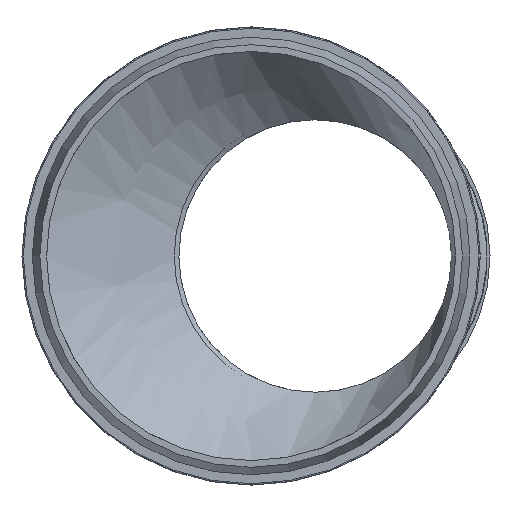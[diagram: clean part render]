
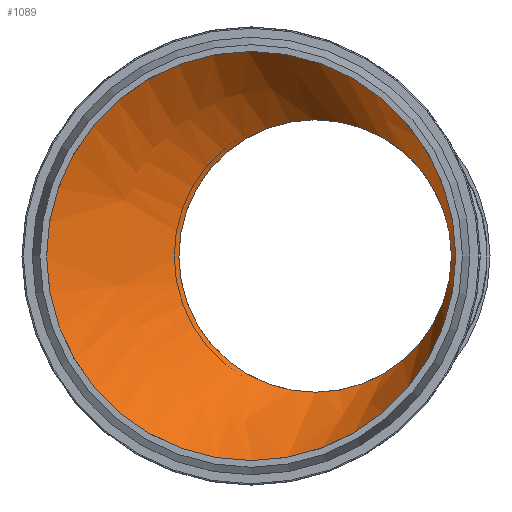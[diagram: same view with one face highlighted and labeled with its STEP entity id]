
A CAD part, front view. The second image highlights one B-rep face of the part: STEP entity #1089.
In plain terms, the highlighted free-form (B-spline) face has degree [1, 2] with [2, 9] control points.
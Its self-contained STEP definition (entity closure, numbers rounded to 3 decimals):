
#202=FACE_OUTER_BOUND($,#262,.T.);
#262=EDGE_LOOP($,(#729,#730,#731,#732,#733,#734));
#364=B_SPLINE_CURVE_WITH_KNOTS($,1,(#1611,#1612),.UNSPECIFIED.,.F.,.F.,
(2,2),(0.,0.848),.UNSPECIFIED.);
#414=CIRCLE($,#1162,49.9);
#415=CIRCLE($,#1163,49.9);
#416=CIRCLE($,#1164,74.925);
#417=CIRCLE($,#1165,74.925);
#473=VERTEX_POINT($,#1606);
#474=VERTEX_POINT($,#1607);
#475=VERTEX_POINT($,#1610);
#476=VERTEX_POINT($,#1613);
#584=EDGE_CURVE($,#473,#474,#414,.T.);
#585=EDGE_CURVE($,#474,#473,#415,.T.);
#586=EDGE_CURVE($,#474,#475,#364,.T.);
#587=EDGE_CURVE($,#475,#476,#416,.T.);
#588=EDGE_CURVE($,#476,#475,#417,.T.);
#729=ORIENTED_EDGE($,*,*,#584,.F.);
#730=ORIENTED_EDGE($,*,*,#585,.F.);
#731=ORIENTED_EDGE($,*,*,#586,.T.);
#732=ORIENTED_EDGE($,*,*,#587,.T.);
#733=ORIENTED_EDGE($,*,*,#588,.T.);
#734=ORIENTED_EDGE($,*,*,#586,.F.);
#1019=(
BOUNDED_SURFACE()
B_SPLINE_SURFACE(1,2,((#1588,#1589,#1590,#1591,#1592,#1593,#1594,#1595,
#1596),(#1597,#1598,#1599,#1600,#1601,#1602,#1603,#1604,#1605)),
 .UNSPECIFIED.,.F.,.T.,.F.)
B_SPLINE_SURFACE_WITH_KNOTS((2,2),(3,2,2,2,3),(-0.417,2.097),
(-3.142,-1.571,0.,1.571,3.142),
 .UNSPECIFIED.)
GEOMETRIC_REPRESENTATION_ITEM()
RATIONAL_B_SPLINE_SURFACE(((1.,0.707,1.,0.707,1.,
0.707,1.,0.707,1.),(1.,0.707,1.,0.707,
1.,0.707,1.,0.707,1.)))
REPRESENTATION_ITEM($)
SURFACE()
);
#1089=ADVANCED_FACE($,(#202),#1019,.T.);
#1162=AXIS2_PLACEMENT_3D($,#1608,#1293,#1294);
#1163=AXIS2_PLACEMENT_3D($,#1609,#1295,#1296);
#1164=AXIS2_PLACEMENT_3D($,#1614,#1297,#1298);
#1165=AXIS2_PLACEMENT_3D($,#1615,#1299,#1300);
#1293=DIRECTION('center_axis',(0.,-1.,0.));
#1294=DIRECTION('ref_axis',(1.,0.,0.));
#1295=DIRECTION('center_axis',(0.,-1.,0.));
#1296=DIRECTION('ref_axis',(1.,0.,0.));
#1297=DIRECTION('center_axis',(0.,-1.,0.));
#1298=DIRECTION('ref_axis',(1.,0.,0.));
#1299=DIRECTION('center_axis',(0.,-1.,0.));
#1300=DIRECTION('ref_axis',(1.,0.,0.));
#1588=CARTESIAN_POINT('Ctrl Pts',(47.254,131.272,35.515));
#1589=CARTESIAN_POINT('Ctrl Pts',(21.188,145.244,35.515));
#1590=CARTESIAN_POINT('Ctrl Pts',(21.188,145.244,0.));
#1591=CARTESIAN_POINT('Ctrl Pts',(21.188,145.244,-35.515));
#1592=CARTESIAN_POINT('Ctrl Pts',(47.254,131.272,-35.515));
#1593=CARTESIAN_POINT('Ctrl Pts',(73.32,117.3,-35.515));
#1594=CARTESIAN_POINT('Ctrl Pts',(73.32,117.3,0.));
#1595=CARTESIAN_POINT('Ctrl Pts',(73.32,117.3,35.515));
#1596=CARTESIAN_POINT('Ctrl Pts',(47.254,131.272,35.515));
#1597=CARTESIAN_POINT('Ctrl Pts',(2.106,47.045,105.638));
#1598=CARTESIAN_POINT('Ctrl Pts',(-75.428,88.605,105.638));
#1599=CARTESIAN_POINT('Ctrl Pts',(-75.428,88.605,0.));
#1600=CARTESIAN_POINT('Ctrl Pts',(-75.428,88.605,-105.638));
#1601=CARTESIAN_POINT('Ctrl Pts',(2.106,47.045,-105.638));
#1602=CARTESIAN_POINT('Ctrl Pts',(79.639,5.485,-105.638));
#1603=CARTESIAN_POINT('Ctrl Pts',(79.639,5.485,0.));
#1604=CARTESIAN_POINT('Ctrl Pts',(79.639,5.485,105.638));
#1605=CARTESIAN_POINT('Ctrl Pts',(2.106,47.045,105.638));
#1606=CARTESIAN_POINT('',(73.32,117.3,0.));
#1607=CARTESIAN_POINT('',(39.764,117.3,47.147));
#1608=CARTESIAN_POINT('Origin',(23.42,117.3,0.));
#1609=CARTESIAN_POINT('Origin',(23.42,117.3,0.));
#1610=CARTESIAN_POINT('',(24.541,88.9,70.792));
#1611=CARTESIAN_POINT('Ctrl Pts',(39.764,117.3,47.147));
#1612=CARTESIAN_POINT('Ctrl Pts',(24.541,88.9,70.792));
#1613=CARTESIAN_POINT('',(74.925,88.9,0.));
#1614=CARTESIAN_POINT('Origin',(0.,88.9,0.));
#1615=CARTESIAN_POINT('Origin',(0.,88.9,0.));
